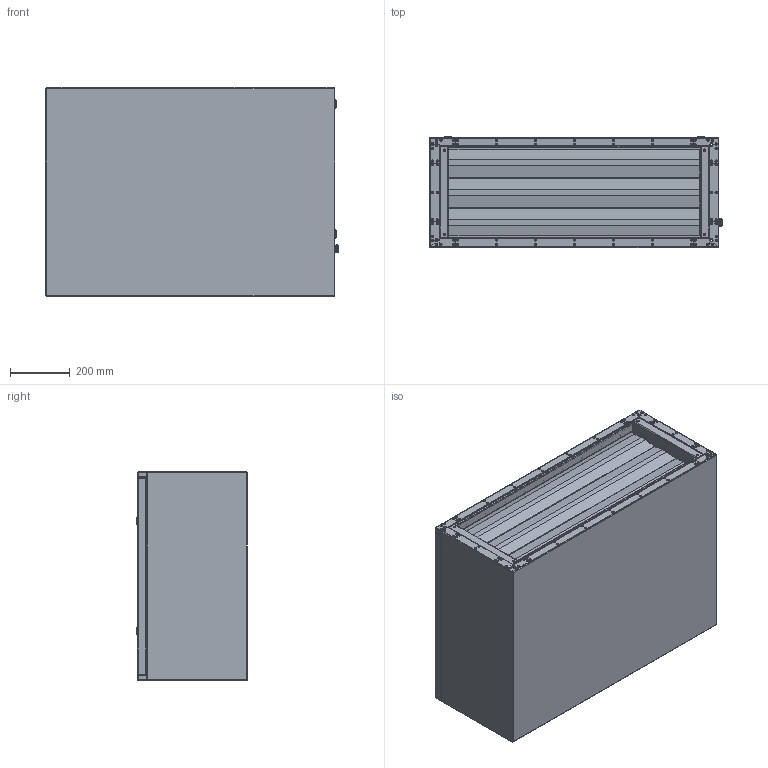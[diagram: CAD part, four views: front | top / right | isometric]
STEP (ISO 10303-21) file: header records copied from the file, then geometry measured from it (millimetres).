
FILE_DESCRIPTION (( 'STEP AP203' ), '1' );
FILE_NAME ('136269-00_SL9030E11010.STEP', '2016-03-23T14:53:37', ( '' ), ( '' ), 'SwSTEP 2.0', 'SolidWorks 2012', '' );
FILE_SCHEMA (( 'CONFIG_CONTROL_DESIGN' ));
Length unit declared in the file: millimetre
Products named in the file (1): 136269-00_SL9030E11010
Bounding box: 978 x 371 x 702.6 mm (x, y, z)
Surface area: 6486176 mm2 (no closed solid volume)
Topology: 0 solids, 212 shells, 1005 faces, 4090 edges, 3158 vertices
Faces by surface type: cylinder 434, torus 298, plane 231, cone 24, bspline 12, sphere 6
Entity records: 45226 total; most frequent: CARTESIAN_POINT 9421, DIRECTION 8483, ORIENTED_EDGE 5557, EDGE_CURVE 4090, AXIS2_PLACEMENT_3D 3490, VERTEX_POINT 3158, CIRCLE 2496, EDGE_LOOP 1566
